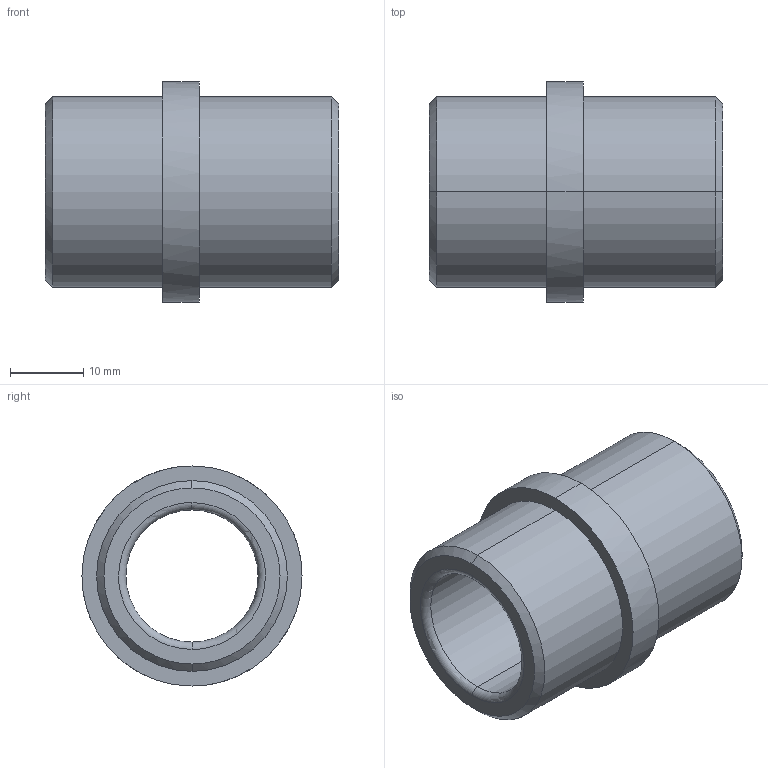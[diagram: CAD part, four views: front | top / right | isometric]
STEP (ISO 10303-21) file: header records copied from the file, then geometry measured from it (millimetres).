
FILE_DESCRIPTION(('CATIA V5 STEP Exchange'),'2;1');
FILE_NAME('C:\Users\Utente\Desktop\IO LAVORO\3D X SITO CF\X SITO\PLASTICA\355\355-18X40.stp','2021-04-21T08:56:32+00:00',('none'),('none'),'CATIA Version 5 Release 20 GA (IN-10)','CATIA V5 STEP AP203','none');
FILE_SCHEMA(('CONFIG_CONTROL_DESIGN'));
Length unit declared in the file: millimetre
Products named in the file (1): 355-18X40
Bounding box: 40 x 30 x 30 mm (x, y, z)
Volume: 11833.6 mm3; surface area: 6350.9 mm2
Topology: 1 solids, 1 shells, 20 faces, 64 edges, 48 vertices
Faces by surface type: cylinder 8, plane 4, cone 4, torus 4
Entity records: 906 total; most frequent: CARTESIAN_POINT 301, ORIENTED_EDGE 128, DIRECTION 92, EDGE_CURVE 64, AXIS2_PLACEMENT_3D 61, VERTEX_POINT 48, CIRCLE 40, EDGE_LOOP 24
